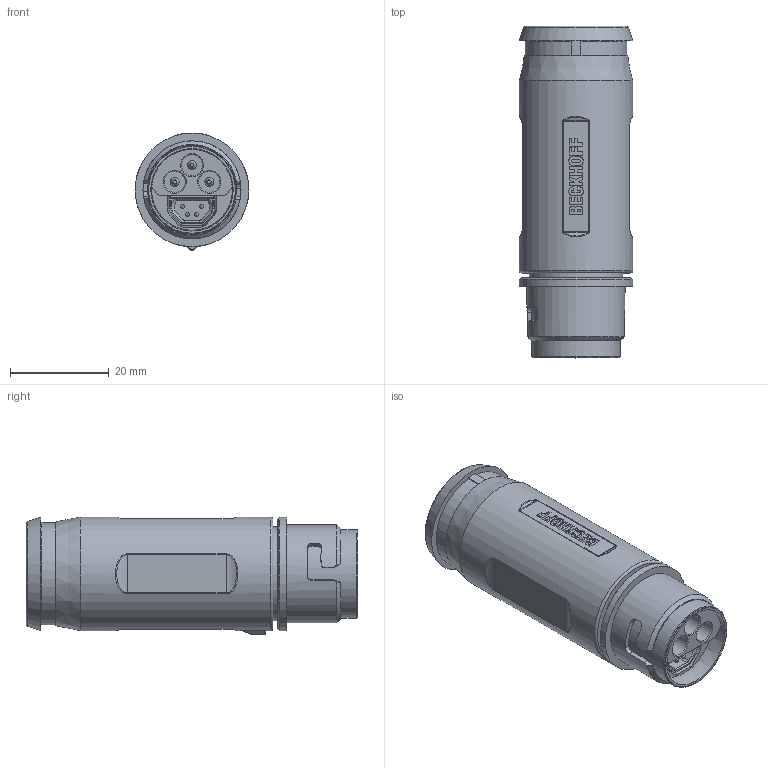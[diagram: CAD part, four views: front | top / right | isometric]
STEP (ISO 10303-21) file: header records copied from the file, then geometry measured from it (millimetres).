
FILE_DESCRIPTION(/* description */ ('','CAx-IF Rec.Pracs.---Representation and Presentation of Product Manufacturing Information (PMI)---4.0---2014-10-13'),/* implementation_level */ '2;1');
FILE_NAME(/* name */ 'C:\Users\FlorianVo\Desktop\STEPs\ECP_B17_3_P_22_solid.stp',/* time_stamp */ '2021-05-25T10:25:01+02:00',/* author */ ('FlorianVo'),/* organization */ (''),/* preprocessor_version */ 'ST-DEVELOPER v18.1',/* originating_system */ 'Autodesk Inventor 2022',/* authorisation */ '');
FILE_SCHEMA (('AP242_MANAGED_MODEL_BASED_3D_ENGINEERING_MIM_LF { 1 0 10303 442 1 1 4 }'));
Length unit declared in the file: millimetre
Products named in the file (1): ECP_B17_3_P_22
Bounding box: 23 x 67.2 x 23.87 mm (x, y, z)
Volume: 23973.7 mm3; surface area: 8611.2 mm2
Topology: 1 solids, 5 shells, 743 faces, 2015 edges, 1323 vertices
Faces by surface type: plane 585, cylinder 71, bspline 49, cone 28, sphere 5, torus 5
Full cylindrical faces by diameter (mm): 0.5 x1, 0.8 x4, 1.8 x3, 4.3 x3, 16.4 x1, 16.5 x1, 17.95 x1, 19 x2, 19.5 x2, 19.85 x1, 23 x2
Entity records: 26800 total; most frequent: CARTESIAN_POINT 7335, ORIENTED_EDGE 4022, DIRECTION 3550, EDGE_CURVE 2011, LINE 1674, VECTOR 1674, VERTEX_POINT 1323, AXIS2_PLACEMENT_3D 938
